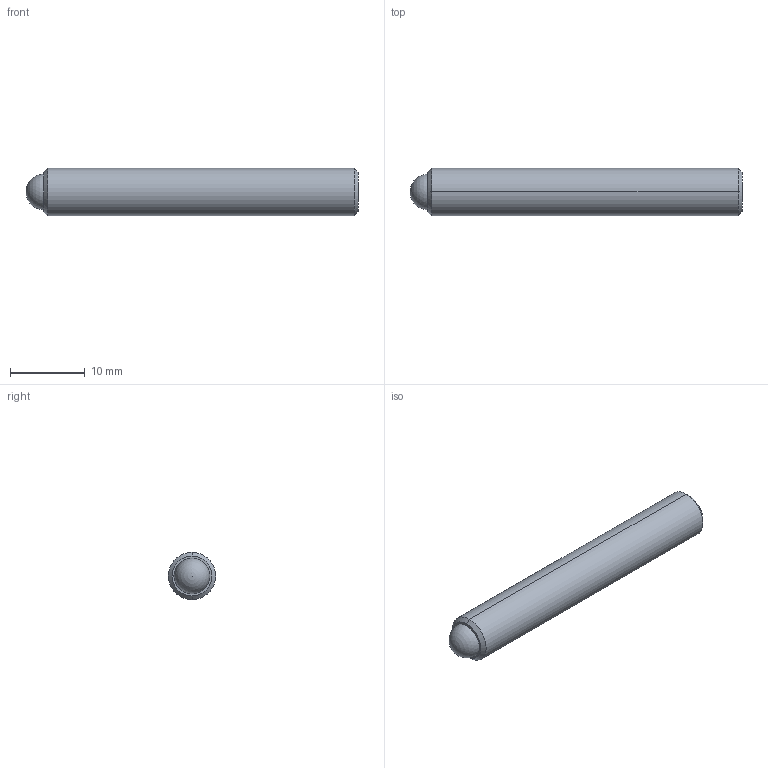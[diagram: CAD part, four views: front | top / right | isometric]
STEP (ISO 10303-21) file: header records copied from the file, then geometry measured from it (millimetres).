
FILE_DESCRIPTION (( 'STEP AP214' ), '1' );
FILE_NAME ('TS250-80-1750-AA-HV.STEP', '2013-05-10T14:41:25', ( 'workpc' ), ( 'Microsoft' ), 'SwSTEP 2.0', 'SolidWorks 2013', '' );
FILE_SCHEMA (( 'AUTOMOTIVE_DESIGN' ));
Length unit declared in the file: inch
Products named in the file (1): TS250-80-1750-AA-HV
Bounding box: 44.45 x 6.35 x 6.35 mm (x, y, z)
Volume: 1333.7 mm3; surface area: 1012.8 mm2
Topology: 2 solids, 2 shells, 24 faces, 57 edges, 37 vertices
Faces by surface type: plane 10, cylinder 8, cone 4, sphere 2
Entity records: 739 total; most frequent: DIRECTION 124, CARTESIAN_POINT 111, ORIENTED_EDGE 104, EDGE_CURVE 52, AXIS2_PLACEMENT_3D 47, VERTEX_POINT 34, VECTOR 30, LINE 30
